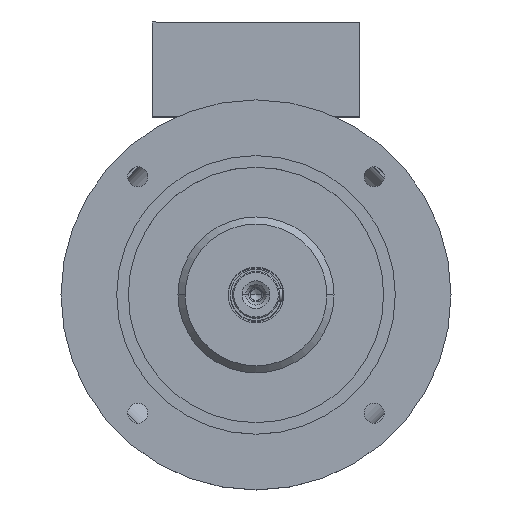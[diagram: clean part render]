
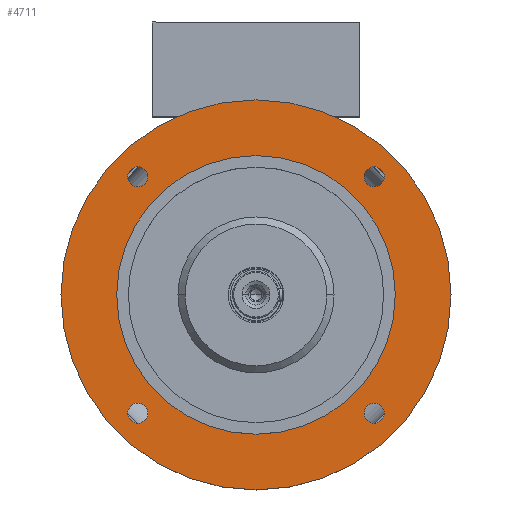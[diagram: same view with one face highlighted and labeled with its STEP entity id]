
A CAD part, top view. The second image highlights one B-rep face of the part: STEP entity #4711.
In plain terms, the highlighted planar face has unit normal (0, 0, 1).
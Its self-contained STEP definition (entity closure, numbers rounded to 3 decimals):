
#150 = CIRCLE ( 'NONE', #15014, 175. ) ;
#394 = EDGE_LOOP ( 'NONE', ( #2567, #4121 ) ) ;
#638 = AXIS2_PLACEMENT_3D ( 'NONE', #5191, #14624, #9941 ) ;
#711 = CARTESIAN_POINT ( 'NONE',  ( 0., 175., 235. ) ) ;
#855 = DIRECTION ( 'NONE',  ( -1., 0., 0. ) ) ;
#915 = DIRECTION ( 'NONE',  ( 0., 0., 1. ) ) ;
#942 = FACE_BOUND ( 'NONE', #7245, .T. ) ;
#1114 = CARTESIAN_POINT ( 'NONE',  ( 106.066, 106.066, 235. ) ) ;
#1450 = DIRECTION ( 'NONE',  ( -1., 0., 0. ) ) ;
#1561 = AXIS2_PLACEMENT_3D ( 'NONE', #12527, #5216, #12199 ) ;
#1662 = DIRECTION ( 'NONE',  ( -1., 0., 0. ) ) ;
#1996 = EDGE_CURVE ( 'NONE', #8124, #3152, #7177, .T. ) ;
#2047 = ORIENTED_EDGE ( 'NONE', *, *, #1996, .F. ) ;
#2098 = EDGE_LOOP ( 'NONE', ( #10119, #7411 ) ) ;
#2100 = CARTESIAN_POINT ( 'NONE',  ( 115.066, -106.066, 235. ) ) ;
#2255 = CIRCLE ( 'NONE', #7542, 9. ) ;
#2306 = CARTESIAN_POINT ( 'NONE',  ( 106.066, 106.066, 235. ) ) ;
#2408 = VERTEX_POINT ( 'NONE', #12134 ) ;
#2567 = ORIENTED_EDGE ( 'NONE', *, *, #4999, .T. ) ;
#2940 = EDGE_CURVE ( 'NONE', #3440, #9811, #14338, .T. ) ;
#3125 = ORIENTED_EDGE ( 'NONE', *, *, #3993, .F. ) ;
#3152 = VERTEX_POINT ( 'NONE', #4793 ) ;
#3172 = FACE_BOUND ( 'NONE', #394, .T. ) ;
#3440 = VERTEX_POINT ( 'NONE', #4562 ) ;
#3798 = DIRECTION ( 'NONE',  ( 0., 0., -1. ) ) ;
#3823 = AXIS2_PLACEMENT_3D ( 'NONE', #711, #8951, #7858 ) ;
#3993 = EDGE_CURVE ( 'NONE', #2408, #9235, #6956, .T. ) ;
#4083 = EDGE_CURVE ( 'NONE', #3152, #8124, #150, .T. ) ;
#4121 = ORIENTED_EDGE ( 'NONE', *, *, #7868, .T. ) ;
#4247 = CIRCLE ( 'NONE', #14554, 9. ) ;
#4430 = CIRCLE ( 'NONE', #1561, 9. ) ;
#4483 = CIRCLE ( 'NONE', #10310, 9. ) ;
#4562 = CARTESIAN_POINT ( 'NONE',  ( -115.066, 106.066, 235. ) ) ;
#4711 = ADVANCED_FACE ( 'NONE', ( #14928, #14569, #942, #13094, #3172, #9978 ), #13726, .T. ) ;
#4793 = CARTESIAN_POINT ( 'NONE',  ( 175., 0., 235. ) ) ;
#4999 = EDGE_CURVE ( 'NONE', #11095, #5636, #12972, .T. ) ;
#5145 = CARTESIAN_POINT ( 'NONE',  ( -125., 0., 235. ) ) ;
#5191 = CARTESIAN_POINT ( 'NONE',  ( -106.066, -106.066, 235. ) ) ;
#5216 = DIRECTION ( 'NONE',  ( 0., 0., 1. ) ) ;
#5222 = ORIENTED_EDGE ( 'NONE', *, *, #8776, .F. ) ;
#5337 = AXIS2_PLACEMENT_3D ( 'NONE', #9518, #7264, #1450 ) ;
#5466 = CARTESIAN_POINT ( 'NONE',  ( 115.066, 106.066, 235. ) ) ;
#5585 = CARTESIAN_POINT ( 'NONE',  ( -106.066, 106.066, 235. ) ) ;
#5618 = ORIENTED_EDGE ( 'NONE', *, *, #6155, .F. ) ;
#5636 = VERTEX_POINT ( 'NONE', #11018 ) ;
#6104 = DIRECTION ( 'NONE',  ( 1., 0., 0. ) ) ;
#6155 = EDGE_CURVE ( 'NONE', #13417, #9977, #2255, .T. ) ;
#6258 = DIRECTION ( 'NONE',  ( 0., 0., -1. ) ) ;
#6489 = CARTESIAN_POINT ( 'NONE',  ( -106.066, -106.066, 235. ) ) ;
#6496 = CARTESIAN_POINT ( 'NONE',  ( 97.066, 106.066, 235. ) ) ;
#6533 = DIRECTION ( 'NONE',  ( 0., 0., 1. ) ) ;
#6900 = CARTESIAN_POINT ( 'NONE',  ( 0., 0., 235. ) ) ;
#6956 = CIRCLE ( 'NONE', #10181, 9. ) ;
#7036 = EDGE_CURVE ( 'NONE', #9977, #13417, #4247, .T. ) ;
#7177 = CIRCLE ( 'NONE', #5337, 175. ) ;
#7245 = EDGE_LOOP ( 'NONE', ( #5222, #7878 ) ) ;
#7264 = DIRECTION ( 'NONE',  ( 0., 0., -1. ) ) ;
#7271 = ORIENTED_EDGE ( 'NONE', *, *, #13016, .F. ) ;
#7362 = CARTESIAN_POINT ( 'NONE',  ( 106.066, -106.066, 235. ) ) ;
#7411 = ORIENTED_EDGE ( 'NONE', *, *, #2940, .F. ) ;
#7542 = AXIS2_PLACEMENT_3D ( 'NONE', #7609, #6533, #7646 ) ;
#7609 = CARTESIAN_POINT ( 'NONE',  ( 106.066, -106.066, 235. ) ) ;
#7646 = DIRECTION ( 'NONE',  ( 1., 0., 0. ) ) ;
#7858 = DIRECTION ( 'NONE',  ( 1., 0., 0. ) ) ;
#7868 = EDGE_CURVE ( 'NONE', #5636, #11095, #15077, .T. ) ;
#7878 = ORIENTED_EDGE ( 'NONE', *, *, #13498, .F. ) ;
#8072 = CIRCLE ( 'NONE', #638, 9. ) ;
#8124 = VERTEX_POINT ( 'NONE', #12611 ) ;
#8213 = DIRECTION ( 'NONE',  ( 0., 1., 0. ) ) ;
#8249 = DIRECTION ( 'NONE',  ( 0., 1., 0. ) ) ;
#8497 = CARTESIAN_POINT ( 'NONE',  ( 0., 0., 235. ) ) ;
#8776 = EDGE_CURVE ( 'NONE', #9480, #12946, #11037, .T. ) ;
#8951 = DIRECTION ( 'NONE',  ( 0., 0., 1. ) ) ;
#9035 = ORIENTED_EDGE ( 'NONE', *, *, #4083, .F. ) ;
#9083 = EDGE_LOOP ( 'NONE', ( #5618, #12401 ) ) ;
#9235 = VERTEX_POINT ( 'NONE', #9680 ) ;
#9437 = AXIS2_PLACEMENT_3D ( 'NONE', #1114, #11706, #8213 ) ;
#9480 = VERTEX_POINT ( 'NONE', #5466 ) ;
#9518 = CARTESIAN_POINT ( 'NONE',  ( 0., 0., 235. ) ) ;
#9644 = DIRECTION ( 'NONE',  ( 0., 0., 1. ) ) ;
#9680 = CARTESIAN_POINT ( 'NONE',  ( -97.066, -106.066, 235. ) ) ;
#9811 = VERTEX_POINT ( 'NONE', #12198 ) ;
#9941 = DIRECTION ( 'NONE',  ( 0., -1., 0. ) ) ;
#9977 = VERTEX_POINT ( 'NONE', #12469 ) ;
#9978 = FACE_OUTER_BOUND ( 'NONE', #12398, .T. ) ;
#10069 = DIRECTION ( 'NONE',  ( 0., 0., 1. ) ) ;
#10119 = ORIENTED_EDGE ( 'NONE', *, *, #11944, .F. ) ;
#10181 = AXIS2_PLACEMENT_3D ( 'NONE', #6489, #10069, #13603 ) ;
#10310 = AXIS2_PLACEMENT_3D ( 'NONE', #2306, #15261, #8249 ) ;
#10655 = CARTESIAN_POINT ( 'NONE',  ( 0., 0., 235. ) ) ;
#10889 = AXIS2_PLACEMENT_3D ( 'NONE', #10655, #3798, #12010 ) ;
#11018 = CARTESIAN_POINT ( 'NONE',  ( 125., 0., 235. ) ) ;
#11037 = CIRCLE ( 'NONE', #9437, 9. ) ;
#11095 = VERTEX_POINT ( 'NONE', #5145 ) ;
#11650 = AXIS2_PLACEMENT_3D ( 'NONE', #5585, #915, #855 ) ;
#11706 = DIRECTION ( 'NONE',  ( 0., 0., 1. ) ) ;
#11944 = EDGE_CURVE ( 'NONE', #9811, #3440, #4430, .T. ) ;
#12010 = DIRECTION ( 'NONE',  ( -1., 0., 0. ) ) ;
#12134 = CARTESIAN_POINT ( 'NONE',  ( -115.066, -106.066, 235. ) ) ;
#12198 = CARTESIAN_POINT ( 'NONE',  ( -97.066, 106.066, 235. ) ) ;
#12199 = DIRECTION ( 'NONE',  ( -1., 0., 0. ) ) ;
#12398 = EDGE_LOOP ( 'NONE', ( #2047, #9035 ) ) ;
#12401 = ORIENTED_EDGE ( 'NONE', *, *, #7036, .F. ) ;
#12469 = CARTESIAN_POINT ( 'NONE',  ( 97.066, -106.066, 235. ) ) ;
#12527 = CARTESIAN_POINT ( 'NONE',  ( -106.066, 106.066, 235. ) ) ;
#12539 = DIRECTION ( 'NONE',  ( -1., 0., 0. ) ) ;
#12611 = CARTESIAN_POINT ( 'NONE',  ( -175., 0., 235. ) ) ;
#12698 = DIRECTION ( 'NONE',  ( 0., 0., -1. ) ) ;
#12946 = VERTEX_POINT ( 'NONE', #6496 ) ;
#12972 = CIRCLE ( 'NONE', #10889, 125. ) ;
#13016 = EDGE_CURVE ( 'NONE', #9235, #2408, #8072, .T. ) ;
#13094 = FACE_BOUND ( 'NONE', #9083, .T. ) ;
#13417 = VERTEX_POINT ( 'NONE', #2100 ) ;
#13498 = EDGE_CURVE ( 'NONE', #12946, #9480, #4483, .T. ) ;
#13603 = DIRECTION ( 'NONE',  ( 0., -1., 0. ) ) ;
#13726 = PLANE ( 'NONE',  #3823 ) ;
#14004 = EDGE_LOOP ( 'NONE', ( #7271, #3125 ) ) ;
#14178 = AXIS2_PLACEMENT_3D ( 'NONE', #8497, #6258, #1662 ) ;
#14338 = CIRCLE ( 'NONE', #11650, 9. ) ;
#14554 = AXIS2_PLACEMENT_3D ( 'NONE', #7362, #9644, #6104 ) ;
#14569 = FACE_BOUND ( 'NONE', #2098, .T. ) ;
#14624 = DIRECTION ( 'NONE',  ( 0., 0., 1. ) ) ;
#14928 = FACE_BOUND ( 'NONE', #14004, .T. ) ;
#15014 = AXIS2_PLACEMENT_3D ( 'NONE', #6900, #12698, #12539 ) ;
#15077 = CIRCLE ( 'NONE', #14178, 125. ) ;
#15261 = DIRECTION ( 'NONE',  ( 0., 0., 1. ) ) ;
